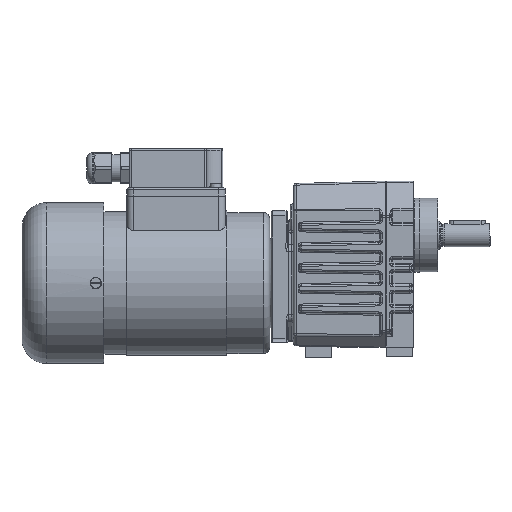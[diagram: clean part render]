
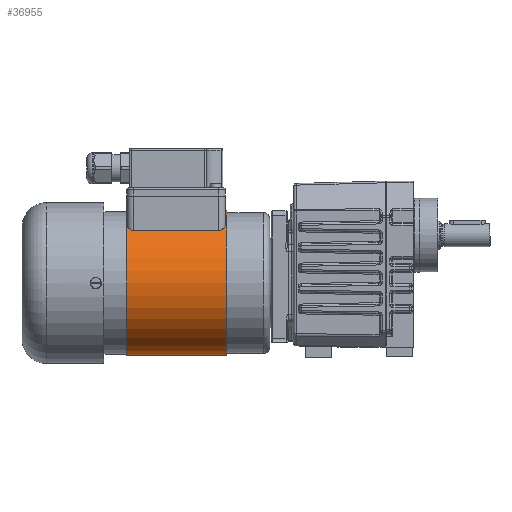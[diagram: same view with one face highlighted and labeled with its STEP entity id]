
A CAD part, left-side view. The second image highlights one B-rep face of the part: STEP entity #36955.
In plain terms, the highlighted cylindrical face has radius 44 mm (diameter 88 mm), a full revolution.
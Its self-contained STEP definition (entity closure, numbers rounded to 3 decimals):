
#4825=FACE_OUTER_BOUND('',#7306,.T.);
#7306=EDGE_LOOP('',(#32844,#32845,#32846,#32847));
#9833=LINE('',#88487,#12290);
#12290=VECTOR('',#51973,44.);
#14492=CIRCLE('',#41588,44.);
#14493=CIRCLE('',#41590,44.);
#17976=VERTEX_POINT('',#88482);
#17977=VERTEX_POINT('',#88485);
#22995=EDGE_CURVE('',#17976,#17976,#14492,.T.);
#22996=EDGE_CURVE('',#17977,#17977,#14493,.T.);
#22997=EDGE_CURVE('',#17977,#17976,#9833,.T.);
#32844=ORIENTED_EDGE('',*,*,#22996,.F.);
#32845=ORIENTED_EDGE('',*,*,#22997,.T.);
#32846=ORIENTED_EDGE('',*,*,#22995,.T.);
#32847=ORIENTED_EDGE('',*,*,#22997,.F.);
#34868=CYLINDRICAL_SURFACE('',#41589,44.);
#36955=ADVANCED_FACE('',(#4825),#34868,.T.);
#41588=AXIS2_PLACEMENT_3D('',#88483,#51967,#51968);
#41589=AXIS2_PLACEMENT_3D('',#88484,#51969,#51970);
#41590=AXIS2_PLACEMENT_3D('',#88486,#51971,#51972);
#51967=DIRECTION('center_axis',(-1.,0.,0.));
#51968=DIRECTION('ref_axis',(0.,0.,1.));
#51969=DIRECTION('center_axis',(-1.,0.,0.));
#51970=DIRECTION('ref_axis',(0.,0.,1.));
#51971=DIRECTION('center_axis',(-1.,0.,0.));
#51972=DIRECTION('ref_axis',(0.,0.,1.));
#51973=DIRECTION('',(1.,0.,0.));
#88482=CARTESIAN_POINT('',(102.,0.,-44.));
#88483=CARTESIAN_POINT('Origin',(102.,0.,0.));
#88484=CARTESIAN_POINT('Origin',(71.5,0.,0.));
#88485=CARTESIAN_POINT('',(41.,0.,-44.));
#88486=CARTESIAN_POINT('Origin',(41.,0.,0.));
#88487=CARTESIAN_POINT('',(71.5,0.,-44.));
